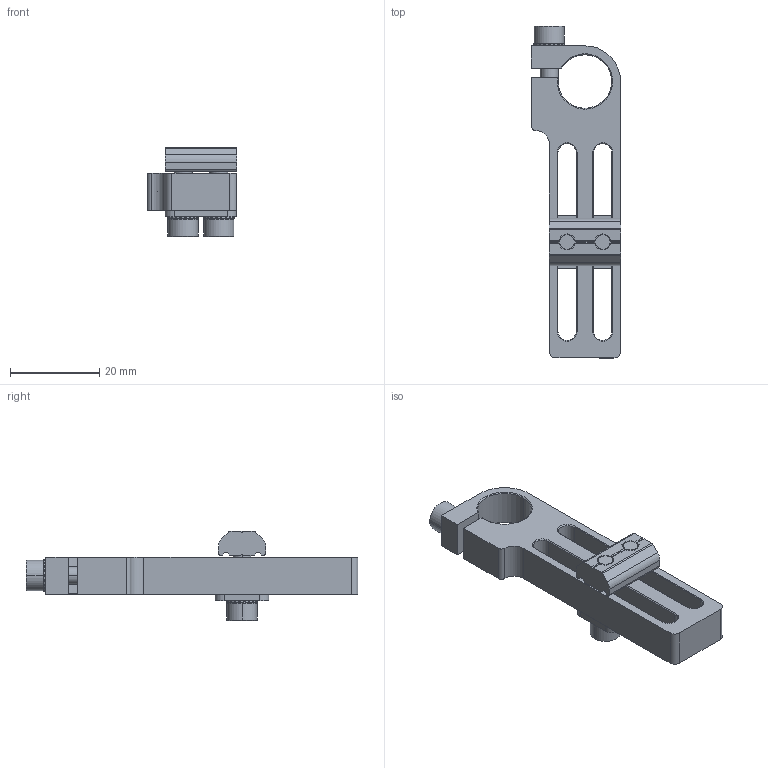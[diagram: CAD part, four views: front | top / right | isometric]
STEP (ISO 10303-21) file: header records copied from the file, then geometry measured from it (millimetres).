
FILE_DESCRIPTION (( 'STEP AP214' ), '1' );
FILE_NAME ('SMBE2-1240.STEP', '2019-11-01T00:55:43', ( '微软用户' ), ( '微软中国' ), 'SwSTEP 2.0', 'SolidWorks 2016', '' );
FILE_SCHEMA (( 'AUTOMOTIVE_DESIGN' ));
Length unit declared in the file: millimetre
Products named in the file (6): PTS-M4; PTN-M4P8; PTD-M4P8; PTC-M4L16; SMBE2-1240
Assembly tree (9 placements, depth 2):
  SMBE2-1240
    SMBE2-1240
    PTC-M4L16  x3
    PTD-M4P8
    PTN-M4P8
    PTS-M4  x3
Bounding box: 20 x 74.45 x 20 mm (x, y, z)
Volume: 7564.8 mm3; surface area: 7356.3 mm2
Topology: 9 solids, 9 shells, 672 faces, 1932 edges, 1273 vertices
Faces by surface type: plane 566, cylinder 70, cone 36
Entity records: 10318 total; most frequent: CARTESIAN_POINT 1947, DIRECTION 1740, ORIENTED_EDGE 1724, EDGE_CURVE 862, AXIS2_PLACEMENT_3D 598, VERTEX_POINT 565, VECTOR 544, LINE 544
